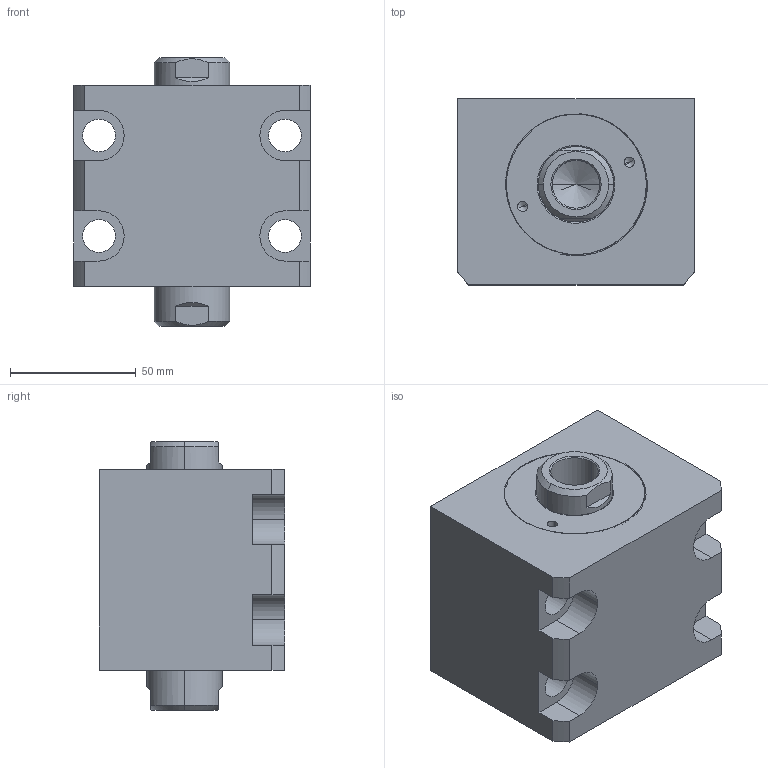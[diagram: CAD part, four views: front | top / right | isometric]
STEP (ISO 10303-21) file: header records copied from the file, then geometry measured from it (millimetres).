
FILE_DESCRIPTION (( 'STEP AP203' ), '1' );
FILE_NAME ('CHTB-LWM50-5N.STEP', '2018-05-22T09:03:01', ( '' ), ( '' ), 'SwSTEP 2.0', 'SolidWorks 2015', '' );
FILE_SCHEMA (( 'CONFIG_CONTROL_DESIGN' ));
Length unit declared in the file: millimetre
Products named in the file (4): 活塞杆LWM50-5N; CHTB-LWM50-5N; CHTM-SDMA50QG; 掛极LWM50-5W
Assembly tree (3 placements, depth 2):
  CHTB-LWM50-5N
    掛极LWM50-5W
    CHTM-SDMA50QG
    活塞杆LWM50-5N
Bounding box: 94 x 74 x 107 mm (x, y, z)
Volume: 494186.2 mm3; surface area: 96082.2 mm2
Topology: 3 solids, 3 shells, 201 faces, 539 edges, 354 vertices
Faces by surface type: cylinder 102, plane 47, cone 22, torus 16, bspline 14
Entity records: 11205 total; most frequent: CARTESIAN_POINT 5986, ORIENTED_EDGE 1062, DIRECTION 951, EDGE_CURVE 531, AXIS2_PLACEMENT_3D 380, VERTEX_POINT 354, EDGE_LOOP 235, ADVANCED_FACE 201
